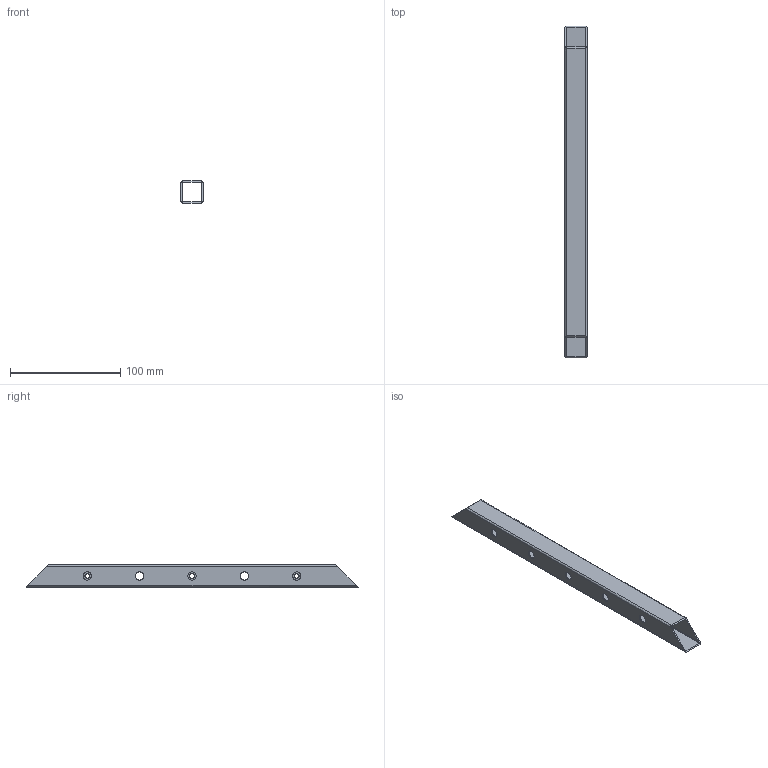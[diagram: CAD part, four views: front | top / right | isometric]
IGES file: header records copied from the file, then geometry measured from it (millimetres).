
Global section: file name: 0393-13-26; native system: VariCAD 2020-1.02; preprocessor: 5.3; author: LVVS3874K00E; organization: Elphe, Inc.; date: 20250930.165804; units: millimetre
Bounding box: 20 x 301 x 20 mm (x, y, z)
Surface area: 41338.4 mm2 (no closed solid volume)
Topology: 0 solids, 0 shells, 38 faces, 216 edges, 216 vertices
Faces by surface type: revolution 28, bspline 10
